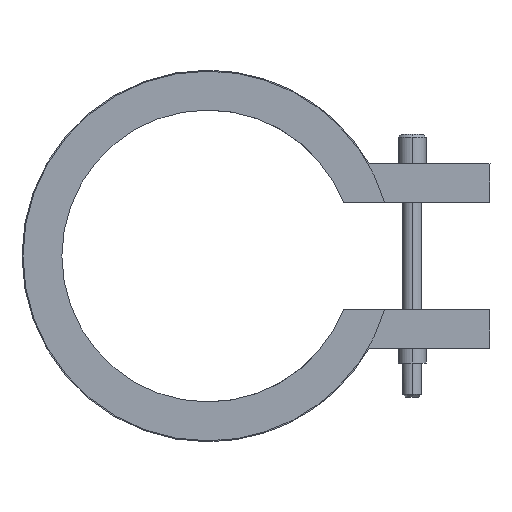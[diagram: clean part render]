
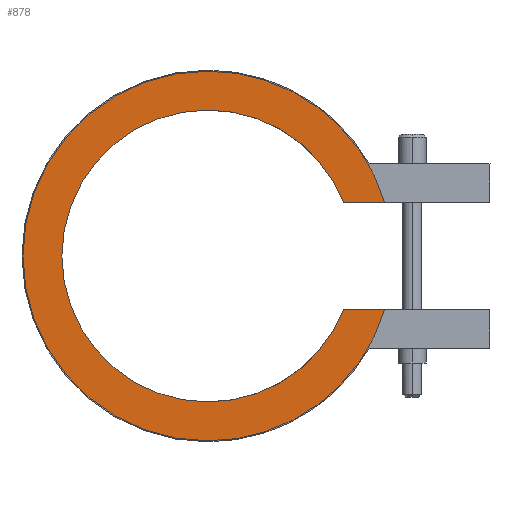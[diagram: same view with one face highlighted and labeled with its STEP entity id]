
A CAD part, left-side view. The second image highlights one B-rep face of the part: STEP entity #878.
In plain terms, the highlighted planar face has unit normal (-1, 0, 0).
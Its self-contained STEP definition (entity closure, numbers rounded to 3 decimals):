
#416=CARTESIAN_POINT('Vertex',(-17.5,-13.955,-5.5)) ;
#419=CARTESIAN_POINT('Line Origine',(-17.5,-16.071,-5.5)) ;
#423=CARTESIAN_POINT('Vertex',(-17.5,-18.187,-5.5)) ;
#469=CARTESIAN_POINT('Vertex',(-17.5,0.,-19.)) ;
#472=CARTESIAN_POINT('Axis2P3D Location',(-17.5,0.,0.)) ;
#493=CARTESIAN_POINT('Vertex',(-17.5,0.,19.)) ;
#496=CARTESIAN_POINT('Axis2P3D Location',(-17.5,0.,0.)) ;
#508=CARTESIAN_POINT('Axis2P3D Location',(-17.5,0.,0.)) ;
#512=CARTESIAN_POINT('Vertex',(-17.5,-18.187,5.5)) ;
#532=CARTESIAN_POINT('Line Origine',(-17.5,-16.071,5.5)) ;
#536=CARTESIAN_POINT('Vertex',(-17.5,-13.955,5.5)) ;
#824=CARTESIAN_POINT('Axis2P3D Location',(-17.5,0.,0.)) ;
#828=CARTESIAN_POINT('Vertex',(-17.5,0.,-15.)) ;
#851=CARTESIAN_POINT('Axis2P3D Location',(-17.5,0.,0.)) ;
#856=CARTESIAN_POINT('Axis2P3D Location',(-17.5,0.,0.)) ;
#860=CARTESIAN_POINT('Vertex',(-17.5,0.,15.)) ;
#863=CARTESIAN_POINT('Axis2P3D Location',(-17.5,0.,0.)) ;
#420=DIRECTION('Vector Direction',(0.,1.,0.)) ;
#473=DIRECTION('Axis2P3D Direction',(1.,0.,-0.)) ;
#497=DIRECTION('Axis2P3D Direction',(1.,0.,-0.)) ;
#509=DIRECTION('Axis2P3D Direction',(1.,0.,-0.)) ;
#533=DIRECTION('Vector Direction',(0.,-1.,0.)) ;
#825=DIRECTION('Axis2P3D Direction',(1.,0.,-0.)) ;
#852=DIRECTION('Axis2P3D Direction',(1.,0.,0.)) ;
#853=DIRECTION('Axis2P3D XDirection',(0.,0.,-1.)) ;
#857=DIRECTION('Axis2P3D Direction',(1.,0.,0.)) ;
#864=DIRECTION('Axis2P3D Direction',(1.,0.,0.)) ;
#474=AXIS2_PLACEMENT_3D('Circle Axis2P3D',#472,#473,$) ;
#498=AXIS2_PLACEMENT_3D('Circle Axis2P3D',#496,#497,$) ;
#510=AXIS2_PLACEMENT_3D('Circle Axis2P3D',#508,#509,$) ;
#826=AXIS2_PLACEMENT_3D('Circle Axis2P3D',#824,#825,$) ;
#854=AXIS2_PLACEMENT_3D('Plane Axis2P3D',#851,#852,#853) ;
#858=AXIS2_PLACEMENT_3D('Circle Axis2P3D',#856,#857,$) ;
#865=AXIS2_PLACEMENT_3D('Circle Axis2P3D',#863,#864,$) ;
#869=ORIENTED_EDGE('',*,*,#425,.T.) ;
#870=ORIENTED_EDGE('',*,*,#830,.T.) ;
#871=ORIENTED_EDGE('',*,*,#862,.T.) ;
#872=ORIENTED_EDGE('',*,*,#867,.T.) ;
#873=ORIENTED_EDGE('',*,*,#538,.T.) ;
#874=ORIENTED_EDGE('',*,*,#514,.F.) ;
#875=ORIENTED_EDGE('',*,*,#500,.F.) ;
#876=ORIENTED_EDGE('',*,*,#476,.F.) ;
#421=VECTOR('Line Direction',#420,1.) ;
#534=VECTOR('Line Direction',#533,1.) ;
#878=ADVANCED_FACE('14030035',(#877),#855,.F.) ;
#475=CIRCLE('generated circle',#474,19.) ;
#499=CIRCLE('generated circle',#498,19.) ;
#511=CIRCLE('generated circle',#510,19.) ;
#827=CIRCLE('generated circle',#826,15.) ;
#859=CIRCLE('generated circle',#858,15.) ;
#866=CIRCLE('generated circle',#865,15.) ;
#425=EDGE_CURVE('',#424,#417,#422,.T.) ;
#476=EDGE_CURVE('',#424,#470,#475,.T.) ;
#500=EDGE_CURVE('',#470,#494,#499,.T.) ;
#514=EDGE_CURVE('',#494,#513,#511,.T.) ;
#538=EDGE_CURVE('',#537,#513,#535,.T.) ;
#830=EDGE_CURVE('',#417,#829,#827,.T.) ;
#862=EDGE_CURVE('',#829,#861,#859,.T.) ;
#867=EDGE_CURVE('',#861,#537,#866,.T.) ;
#868=EDGE_LOOP('',(#869,#870,#871,#872,#873,#874,#875,#876)) ;
#877=FACE_OUTER_BOUND('',#868,.T.) ;
#422=LINE('Line',#419,#421) ;
#535=LINE('Line',#532,#534) ;
#855=PLANE('Plane',#854) ;
#417=VERTEX_POINT('',#416) ;
#424=VERTEX_POINT('',#423) ;
#470=VERTEX_POINT('',#469) ;
#494=VERTEX_POINT('',#493) ;
#513=VERTEX_POINT('',#512) ;
#537=VERTEX_POINT('',#536) ;
#829=VERTEX_POINT('',#828) ;
#861=VERTEX_POINT('',#860) ;
